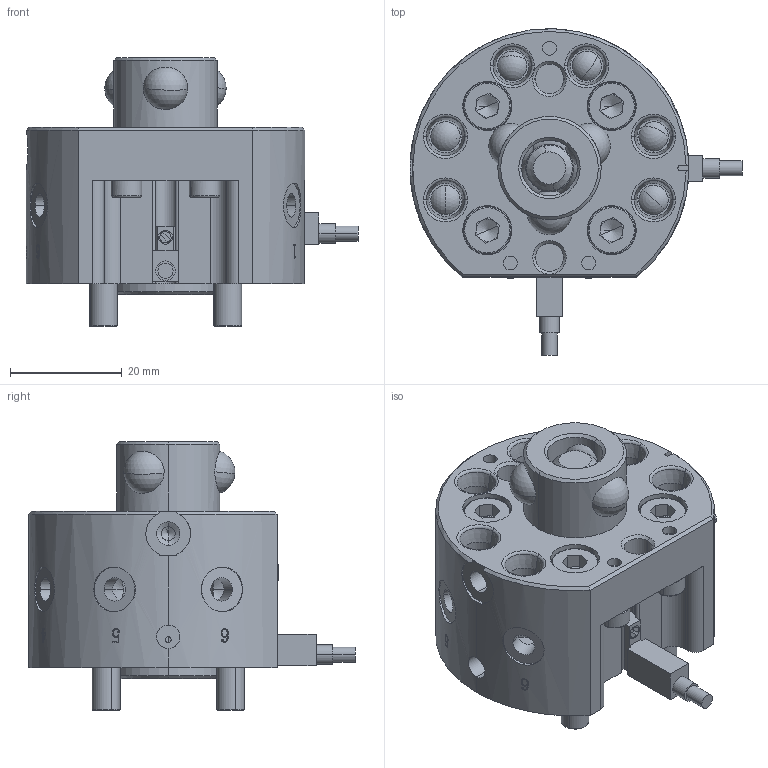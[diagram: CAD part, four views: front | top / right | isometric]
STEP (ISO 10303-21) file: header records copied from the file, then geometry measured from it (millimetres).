
FILE_DESCRIPTION (( 'STEP AP214' ), '1' );
FILE_NAME ('QCA-05R1.STEP', '2024-09-03T01:26:35', ( '' ), ( '' ), 'SwSTEP 2.0', 'SolidWorks 2018', '' );
FILE_SCHEMA (( 'AUTOMOTIVE_DESIGN' ));
Length unit declared in the file: millimetre
Products named in the file (1): QCA-05R1
Bounding box: 59.5 x 58.49 x 48.2 mm (x, y, z)
Volume: 47347.2 mm3; surface area: 22284.2 mm2
Topology: 1 solids, 17 shells, 784 faces, 1891 edges, 1196 vertices
Faces by surface type: plane 289, cylinder 250, bspline 73, cone 72, sphere 56, torus 44
Entity records: 41159 total; most frequent: CARTESIAN_POINT 17196, DIRECTION 3808, ORIENTED_EDGE 3708, EDGE_CURVE 1854, AXIS2_PLACEMENT_3D 1555, VERTEX_POINT 1188, EDGE_LOOP 904, CIRCLE 843
